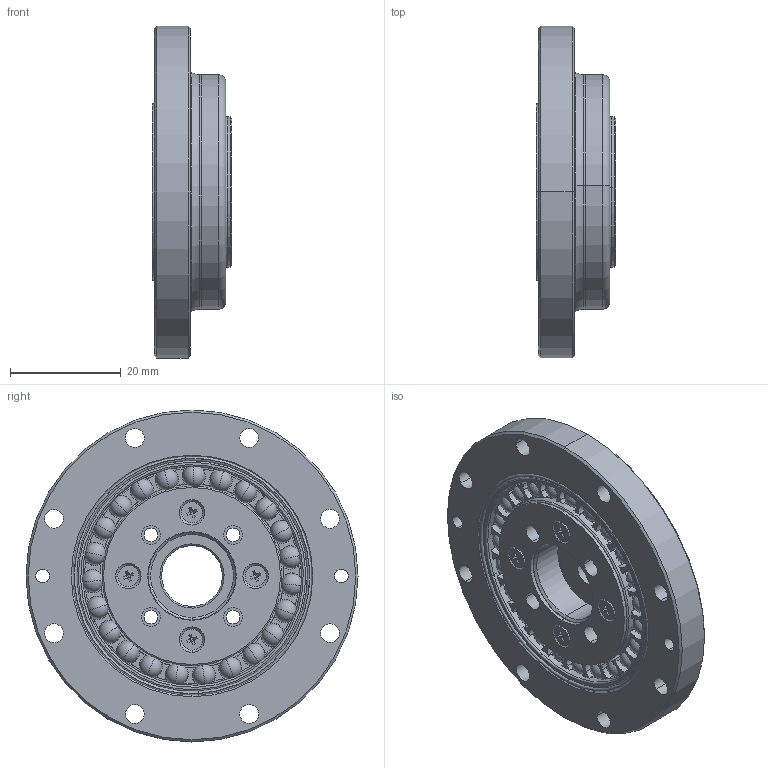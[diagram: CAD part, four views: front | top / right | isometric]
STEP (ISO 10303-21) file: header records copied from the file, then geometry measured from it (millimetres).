
FILE_DESCRIPTION (( 'STEP AP203' ), '1' );
FILE_NAME ('LCD-17-XXX-P-I.STEP', '2017-03-30T10:27:58', ( 'Windows 蚚誧' ), ( 'Users' ), 'SwSTEP 2.0', 'SolidWorks 2013', '' );
FILE_SCHEMA (( 'CONFIG_CONTROL_DESIGN' ));
Length unit declared in the file: millimetre
Products named in the file (9): DB-17-I; LCD-17-XXX-P01; countersunk flat head cross recess screw_din_ISO 7046-1 - M2 x 3 - Z --- 3C; LCD-17-XXX-P02; LCD-17-XXX-P-I; LCD-17-XXX-P03; RZC-17G内外圈+钢球; RZC-17悵厥殤; 柔性轴承RZC-17G
Assembly tree (11 placements, depth 3):
  LCD-17-XXX-P-I
    LCD-17-XXX-P03
    柔性轴承RZC-17G
      RZC-17G内外圈+钢球
      RZC-17悵厥殤
    DB-17-I
    LCD-17-XXX-P01
    countersunk flat head cross recess screw_din_ISO 7046-1 - M2 x 3 - Z --- 3C  x4
    LCD-17-XXX-P02
Bounding box: 14.4 x 60 x 60 mm (x, y, z)
Volume: 16696.2 mm3; surface area: 21543.7 mm2
Topology: 34 solids, 34 shells, 516 faces, 1321 edges, 831 vertices
Faces by surface type: cylinder 190, plane 156, cone 80, sphere 46, torus 44
Entity records: 12743 total; most frequent: DIRECTION 2341, CARTESIAN_POINT 1969, ORIENTED_EDGE 1844, AXIS2_PLACEMENT_3D 1024, EDGE_CURVE 922, CIRCLE 616, VERTEX_POINT 600, EDGE_LOOP 484
